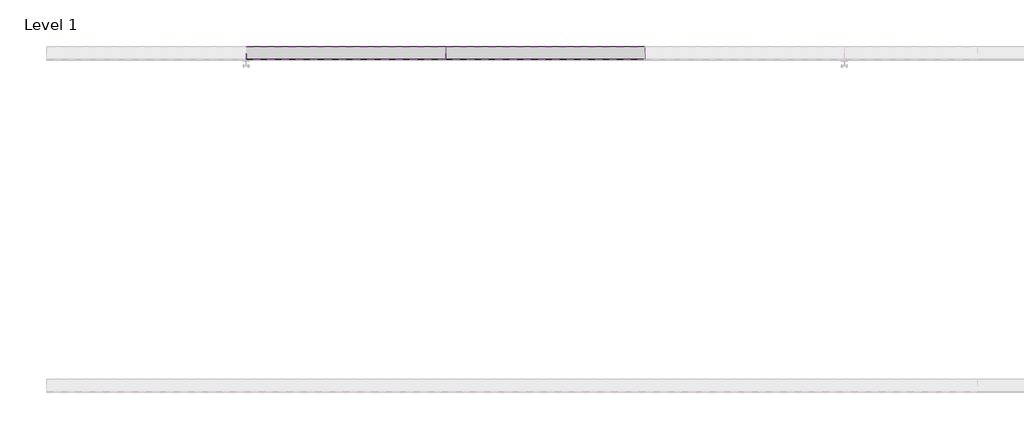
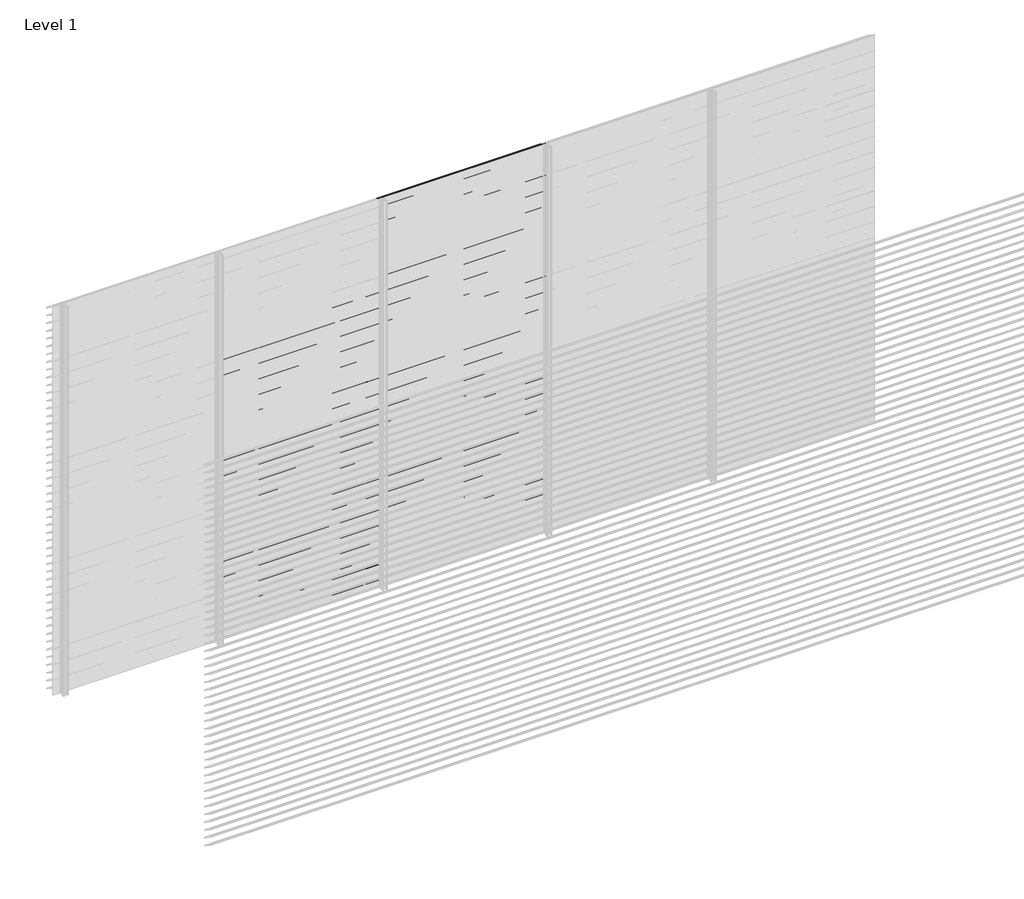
# One storey, part 21 of 153: 84 proxies.
"""IFC4 building model written with IfcOpenShell, lengths in millimetres."""

from ifc_helpers import new_model, si_unit, frame, origin, place, context, project, spatial, polyline, outline, extrude, element, save

model = new_model("IFC4")

# Units and contexts
model_context = context("Model", 3, world=origin())
ifc_project = project(units=[si_unit("LENGTHUNIT", "METRE", prefix="MILLI")], contexts=[model_context])

# Site, building, storey
site = spatial("IfcSite", under=ifc_project)
building = spatial("IfcBuilding", under=site)
storey = spatial("IfcBuildingStorey", under=building, Name="Level 1", Elevation=0.0)

# Proxies
placement = place(None, origin())
element("IfcBuildingElementProxy", 1, Name="Wall Sweeps", at=placement, inside=storey, context=model_context, shape_type="SweptSolid", body=[
    extrude(outline(polyline([(21561.0540136, 2226.0), (21561.0540136, 2220.0), (21559.8040136, 2220.7216933), (21559.8040136, 2225.2538091), (21483.0540136, 2273.9915103), (21483.0540136, 2280.0), (21484.3040136, 2280.0), (21484.3040136, 2274.7377012), (21561.0540136, 2226.0)])), frame((1666.6208099, 0.0, 0.0), z_axis=(1.0, 0.0, 0.0), x_axis=(0.0, 1.0, 0.0)), (0.0, 0.0, 1.0), 1199.9999999),
])
element("IfcBuildingElementProxy", 2, Name="Wall Sweeps", at=placement, inside=storey, context=model_context, shape_type="SweptSolid", body=[
    extrude(outline(polyline([(21561.0540136, 2166.0), (21561.0540136, 2160.0), (21559.8040136, 2160.7216933), (21559.8040136, 2165.2538091), (21483.0540136, 2213.9915103), (21483.0540136, 2220.0), (21484.3040136, 2220.0), (21484.3040136, 2214.7377012), (21561.0540136, 2166.0)])), frame((1666.6208099, 0.0, 0.0), z_axis=(1.0, 0.0, 0.0), x_axis=(0.0, 1.0, 0.0)), (0.0, 0.0, 1.0), 1199.9999999),
])
element("IfcBuildingElementProxy", 3, Name="Wall Sweeps", at=placement, inside=storey, context=model_context, shape_type="SweptSolid", body=[
    extrude(outline(polyline([(21561.0540136, 2106.0), (21561.0540136, 2100.0), (21559.8040136, 2100.7216933), (21559.8040136, 2105.2538091), (21483.0540136, 2153.9915103), (21483.0540136, 2160.0), (21484.3040136, 2160.0), (21484.3040136, 2154.7377012), (21561.0540136, 2106.0)])), frame((1666.6208099, 0.0, 0.0), z_axis=(1.0, 0.0, 0.0), x_axis=(0.0, 1.0, 0.0)), (0.0, 0.0, 1.0), 1199.9999999),
])
element("IfcBuildingElementProxy", 4, Name="Wall Sweeps", at=placement, inside=storey, context=model_context, shape_type="SweptSolid", body=[
    extrude(outline(polyline([(21561.0540136, 2046.0), (21561.0540136, 2040.0), (21559.8040136, 2040.7216933), (21559.8040136, 2045.2538091), (21483.0540136, 2093.9915103), (21483.0540136, 2100.0), (21484.3040136, 2100.0), (21484.3040136, 2094.7377012), (21561.0540136, 2046.0)])), frame((1666.6208099, 0.0, 0.0), z_axis=(1.0, 0.0, 0.0), x_axis=(0.0, 1.0, 0.0)), (0.0, 0.0, 1.0), 1199.9999999),
])
element("IfcBuildingElementProxy", 5, Name="Wall Sweeps", at=placement, inside=storey, context=model_context, shape_type="SweptSolid", body=[
    extrude(outline(polyline([(21561.0540136, 1986.0), (21561.0540136, 1980.0), (21559.8040136, 1980.7216933), (21559.8040136, 1985.2538091), (21483.0540136, 2033.9915103), (21483.0540136, 2040.0), (21484.3040136, 2040.0), (21484.3040136, 2034.7377012), (21561.0540136, 1986.0)])), frame((1666.6208099, 0.0, 0.0), z_axis=(1.0, 0.0, 0.0), x_axis=(0.0, 1.0, 0.0)), (0.0, 0.0, 1.0), 1199.9999999),
])
element("IfcBuildingElementProxy", 6, Name="Wall Sweeps", at=placement, inside=storey, context=model_context, shape_type="SweptSolid", body=[
    extrude(outline(polyline([(21561.0540136, 1926.0), (21561.0540136, 1920.0), (21559.8040136, 1920.7216933), (21559.8040136, 1925.2538091), (21483.0540136, 1973.9915103), (21483.0540136, 1980.0), (21484.3040136, 1980.0), (21484.3040136, 1974.7377012), (21561.0540136, 1926.0)])), frame((1666.6208099, 0.0, 0.0), z_axis=(1.0, 0.0, 0.0), x_axis=(0.0, 1.0, 0.0)), (0.0, 0.0, 1.0), 1199.9999999),
])
element("IfcBuildingElementProxy", 7, Name="Wall Sweeps", at=placement, inside=storey, context=model_context, shape_type="SweptSolid", body=[
    extrude(outline(polyline([(21561.0540136, 1866.0), (21561.0540136, 1860.0), (21559.8040136, 1860.7216933), (21559.8040136, 1865.2538091), (21483.0540136, 1913.9915103), (21483.0540136, 1920.0), (21484.3040136, 1920.0), (21484.3040136, 1914.7377012), (21561.0540136, 1866.0)])), frame((1666.6208099, 0.0, 0.0), z_axis=(1.0, 0.0, 0.0), x_axis=(0.0, 1.0, 0.0)), (0.0, 0.0, 1.0), 1199.9999999),
])
element("IfcBuildingElementProxy", 8, Name="Wall Sweeps", at=placement, inside=storey, context=model_context, shape_type="SweptSolid", body=[
    extrude(outline(polyline([(21561.0540136, 1806.0), (21561.0540136, 1800.0), (21559.8040136, 1800.7216933), (21559.8040136, 1805.2538091), (21483.0540136, 1853.9915103), (21483.0540136, 1860.0), (21484.3040136, 1860.0), (21484.3040136, 1854.7377012), (21561.0540136, 1806.0)])), frame((1666.6208099, 0.0, 0.0), z_axis=(1.0, 0.0, 0.0), x_axis=(0.0, 1.0, 0.0)), (0.0, 0.0, 1.0), 1199.9999999),
])
element("IfcBuildingElementProxy", 9, Name="Wall Sweeps", at=placement, inside=storey, context=model_context, shape_type="SweptSolid", body=[
    extrude(outline(polyline([(21561.0540136, 1746.0), (21561.0540136, 1740.0), (21559.8040136, 1740.7216933), (21559.8040136, 1745.2538091), (21483.0540136, 1793.9915103), (21483.0540136, 1800.0), (21484.3040136, 1800.0), (21484.3040136, 1794.7377012), (21561.0540136, 1746.0)])), frame((1666.6208099, 0.0, 0.0), z_axis=(1.0, 0.0, 0.0), x_axis=(0.0, 1.0, 0.0)), (0.0, 0.0, 1.0), 1199.9999999),
])
element("IfcBuildingElementProxy", 10, Name="Wall Sweeps", at=placement, inside=storey, context=model_context, shape_type="SweptSolid", body=[
    extrude(outline(polyline([(21561.0540136, 1686.0), (21561.0540136, 1680.0), (21559.8040136, 1680.7216933), (21559.8040136, 1685.2538091), (21483.0540136, 1733.9915103), (21483.0540136, 1740.0), (21484.3040136, 1740.0), (21484.3040136, 1734.7377012), (21561.0540136, 1686.0)])), frame((1666.6208099, 0.0, 0.0), z_axis=(1.0, 0.0, 0.0), x_axis=(0.0, 1.0, 0.0)), (0.0, 0.0, 1.0), 1199.9999999),
])
element("IfcBuildingElementProxy", 11, Name="Wall Sweeps", at=placement, inside=storey, context=model_context, shape_type="SweptSolid", body=[
    extrude(outline(polyline([(21561.0540136, 1626.0), (21561.0540136, 1620.0), (21559.8040136, 1620.7216933), (21559.8040136, 1625.2538091), (21483.0540136, 1673.9915103), (21483.0540136, 1680.0), (21484.3040136, 1680.0), (21484.3040136, 1674.7377012), (21561.0540136, 1626.0)])), frame((1666.6208099, 0.0, 0.0), z_axis=(1.0, 0.0, 0.0), x_axis=(0.0, 1.0, 0.0)), (0.0, 0.0, 1.0), 1199.9999999),
])
element("IfcBuildingElementProxy", 12, Name="Wall Sweeps", at=placement, inside=storey, context=model_context, shape_type="SweptSolid", body=[
    extrude(outline(polyline([(21561.0540136, 1566.0), (21561.0540136, 1560.0), (21559.8040136, 1560.7216933), (21559.8040136, 1565.2538091), (21483.0540136, 1613.9915103), (21483.0540136, 1620.0), (21484.3040136, 1620.0), (21484.3040136, 1614.7377012), (21561.0540136, 1566.0)])), frame((1666.6208099, 0.0, 0.0), z_axis=(1.0, 0.0, 0.0), x_axis=(0.0, 1.0, 0.0)), (0.0, 0.0, 1.0), 1199.9999999),
])
element("IfcBuildingElementProxy", 13, Name="Wall Sweeps", at=placement, inside=storey, context=model_context, shape_type="SweptSolid", body=[
    extrude(outline(polyline([(21561.0540136, 1506.0), (21561.0540136, 1500.0), (21559.8040136, 1500.7216933), (21559.8040136, 1505.2538091), (21483.0540136, 1553.9915103), (21483.0540136, 1560.0), (21484.3040136, 1560.0), (21484.3040136, 1554.7377012), (21561.0540136, 1506.0)])), frame((1666.6208099, 0.0, 0.0), z_axis=(1.0, 0.0, 0.0), x_axis=(0.0, 1.0, 0.0)), (0.0, 0.0, 1.0), 1199.9999999),
])
element("IfcBuildingElementProxy", 14, Name="Wall Sweeps", at=placement, inside=storey, context=model_context, shape_type="SweptSolid", body=[
    extrude(outline(polyline([(21561.0540136, 1446.0), (21561.0540136, 1440.0), (21559.8040136, 1440.7216933), (21559.8040136, 1445.2538091), (21483.0540136, 1493.9915103), (21483.0540136, 1500.0), (21484.3040136, 1500.0), (21484.3040136, 1494.7377012), (21561.0540136, 1446.0)])), frame((1666.6208099, 0.0, 0.0), z_axis=(1.0, 0.0, 0.0), x_axis=(0.0, 1.0, 0.0)), (0.0, 0.0, 1.0), 1199.9999999),
])
element("IfcBuildingElementProxy", 15, Name="Wall Sweeps", at=placement, inside=storey, context=model_context, shape_type="SweptSolid", body=[
    extrude(outline(polyline([(21561.0540136, 1386.0), (21561.0540136, 1380.0), (21559.8040136, 1380.7216933), (21559.8040136, 1385.2538091), (21483.0540136, 1433.9915103), (21483.0540136, 1440.0), (21484.3040136, 1440.0), (21484.3040136, 1434.7377012), (21561.0540136, 1386.0)])), frame((1666.6208099, 0.0, 0.0), z_axis=(1.0, 0.0, 0.0), x_axis=(0.0, 1.0, 0.0)), (0.0, 0.0, 1.0), 1199.9999999),
])
element("IfcBuildingElementProxy", 16, Name="Wall Sweeps", at=placement, inside=storey, context=model_context, shape_type="SweptSolid", body=[
    extrude(outline(polyline([(21561.0540136, 1326.0), (21561.0540136, 1320.0), (21559.8040136, 1320.7216933), (21559.8040136, 1325.2538091), (21483.0540136, 1373.9915103), (21483.0540136, 1380.0), (21484.3040136, 1380.0), (21484.3040136, 1374.7377012), (21561.0540136, 1326.0)])), frame((1666.6208099, 0.0, 0.0), z_axis=(1.0, 0.0, 0.0), x_axis=(0.0, 1.0, 0.0)), (0.0, 0.0, 1.0), 1199.9999999),
])
element("IfcBuildingElementProxy", 17, Name="Wall Sweeps", at=placement, inside=storey, context=model_context, shape_type="SweptSolid", body=[
    extrude(outline(polyline([(21561.0540136, 1266.0), (21561.0540136, 1260.0), (21559.8040136, 1260.7216933), (21559.8040136, 1265.2538091), (21483.0540136, 1313.9915103), (21483.0540136, 1320.0), (21484.3040136, 1320.0), (21484.3040136, 1314.7377012), (21561.0540136, 1266.0)])), frame((1666.6208099, 0.0, 0.0), z_axis=(1.0, 0.0, 0.0), x_axis=(0.0, 1.0, 0.0)), (0.0, 0.0, 1.0), 1199.9999999),
])
element("IfcBuildingElementProxy", 18, Name="Wall Sweeps", at=placement, inside=storey, context=model_context, shape_type="SweptSolid", body=[
    extrude(outline(polyline([(21561.0540136, 1206.0), (21561.0540136, 1200.0), (21559.8040136, 1200.7216933), (21559.8040136, 1205.2538091), (21483.0540136, 1253.9915103), (21483.0540136, 1260.0), (21484.3040136, 1260.0), (21484.3040136, 1254.7377012), (21561.0540136, 1206.0)])), frame((1666.6208099, 0.0, 0.0), z_axis=(1.0, 0.0, 0.0), x_axis=(0.0, 1.0, 0.0)), (0.0, 0.0, 1.0), 1199.9999999),
])
element("IfcBuildingElementProxy", 19, Name="Wall Sweeps", at=placement, inside=storey, context=model_context, shape_type="SweptSolid", body=[
    extrude(outline(polyline([(21561.0540136, 1146.0), (21561.0540136, 1140.0), (21559.8040136, 1140.7216933), (21559.8040136, 1145.2538091), (21483.0540136, 1193.9915103), (21483.0540136, 1200.0), (21484.3040136, 1200.0), (21484.3040136, 1194.7377012), (21561.0540136, 1146.0)])), frame((1666.6208099, 0.0, 0.0), z_axis=(1.0, 0.0, 0.0), x_axis=(0.0, 1.0, 0.0)), (0.0, 0.0, 1.0), 1199.9999999),
])
element("IfcBuildingElementProxy", 20, Name="Wall Sweeps", at=placement, inside=storey, context=model_context, shape_type="SweptSolid", body=[
    extrude(outline(polyline([(21561.0540136, 1086.0), (21561.0540136, 1080.0), (21559.8040136, 1080.7216933), (21559.8040136, 1085.2538091), (21483.0540136, 1133.9915103), (21483.0540136, 1140.0), (21484.3040136, 1140.0), (21484.3040136, 1134.7377012), (21561.0540136, 1086.0)])), frame((1666.6208099, 0.0, 0.0), z_axis=(1.0, 0.0, 0.0), x_axis=(0.0, 1.0, 0.0)), (0.0, 0.0, 1.0), 1199.9999999),
])
element("IfcBuildingElementProxy", 21, Name="Wall Sweeps", at=placement, inside=storey, context=model_context, shape_type="SweptSolid", body=[
    extrude(outline(polyline([(21561.0540136, 1026.0), (21561.0540136, 1020.0), (21559.8040136, 1020.7216933), (21559.8040136, 1025.2538091), (21483.0540136, 1073.9915103), (21483.0540136, 1080.0), (21484.3040136, 1080.0), (21484.3040136, 1074.7377012), (21561.0540136, 1026.0)])), frame((1666.6208099, 0.0, 0.0), z_axis=(1.0, 0.0, 0.0), x_axis=(0.0, 1.0, 0.0)), (0.0, 0.0, 1.0), 1199.9999999),
])
element("IfcBuildingElementProxy", 22, Name="Wall Sweeps", at=placement, inside=storey, context=model_context, shape_type="SweptSolid", body=[
    extrude(outline(polyline([(21561.0540136, 966.0), (21561.0540136, 960.0), (21559.8040136, 960.7216933), (21559.8040136, 965.2538091), (21483.0540136, 1013.9915103), (21483.0540136, 1020.0), (21484.3040136, 1020.0), (21484.3040136, 1014.7377012), (21561.0540136, 966.0)])), frame((1666.6208099, 0.0, 0.0), z_axis=(1.0, 0.0, 0.0), x_axis=(0.0, 1.0, 0.0)), (0.0, 0.0, 1.0), 1199.9999999),
])
element("IfcBuildingElementProxy", 23, Name="Wall Sweeps", at=placement, inside=storey, context=model_context, shape_type="SweptSolid", body=[
    extrude(outline(polyline([(21561.0540136, 906.0), (21561.0540136, 900.0), (21559.8040136, 900.7216933), (21559.8040136, 905.2538091), (21483.0540136, 953.9915103), (21483.0540136, 960.0), (21484.3040136, 960.0), (21484.3040136, 954.7377012), (21561.0540136, 906.0)])), frame((1666.6208099, 0.0, 0.0), z_axis=(1.0, 0.0, 0.0), x_axis=(0.0, 1.0, 0.0)), (0.0, 0.0, 1.0), 1199.9999999),
])
element("IfcBuildingElementProxy", 24, Name="Wall Sweeps", at=placement, inside=storey, context=model_context, shape_type="SweptSolid", body=[
    extrude(outline(polyline([(21561.0540136, 846.0), (21561.0540136, 840.0), (21559.8040136, 840.7216933), (21559.8040136, 845.2538091), (21483.0540136, 893.9915103), (21483.0540136, 900.0), (21484.3040136, 900.0), (21484.3040136, 894.7377012), (21561.0540136, 846.0)])), frame((1666.6208099, 0.0, 0.0), z_axis=(1.0, 0.0, 0.0), x_axis=(0.0, 1.0, 0.0)), (0.0, 0.0, 1.0), 1199.9999999),
])
element("IfcBuildingElementProxy", 25, Name="Wall Sweeps", at=placement, inside=storey, context=model_context, shape_type="SweptSolid", body=[
    extrude(outline(polyline([(21561.0540136, 786.0), (21561.0540136, 780.0), (21559.8040136, 780.7216933), (21559.8040136, 785.2538091), (21483.0540136, 833.9915103), (21483.0540136, 840.0), (21484.3040136, 840.0), (21484.3040136, 834.7377012), (21561.0540136, 786.0)])), frame((1666.6208099, 0.0, 0.0), z_axis=(1.0, 0.0, 0.0), x_axis=(0.0, 1.0, 0.0)), (0.0, 0.0, 1.0), 1199.9999999),
])
element("IfcBuildingElementProxy", 26, Name="Wall Sweeps", at=placement, inside=storey, context=model_context, shape_type="SweptSolid", body=[
    extrude(outline(polyline([(21561.0540136, 726.0), (21561.0540136, 720.0), (21559.8040136, 720.7216933), (21559.8040136, 725.2538091), (21483.0540136, 773.9915103), (21483.0540136, 780.0), (21484.3040136, 780.0), (21484.3040136, 774.7377012), (21561.0540136, 726.0)])), frame((1666.6208099, 0.0, 0.0), z_axis=(1.0, 0.0, 0.0), x_axis=(0.0, 1.0, 0.0)), (0.0, 0.0, 1.0), 1199.9999999),
])
element("IfcBuildingElementProxy", 27, Name="Wall Sweeps", at=placement, inside=storey, context=model_context, shape_type="SweptSolid", body=[
    extrude(outline(polyline([(21561.0540136, 666.0), (21561.0540136, 660.0), (21559.8040136, 660.7216933), (21559.8040136, 665.2538091), (21483.0540136, 713.9915103), (21483.0540136, 720.0), (21484.3040136, 720.0), (21484.3040136, 714.7377012), (21561.0540136, 666.0)])), frame((1666.6208099, 0.0, 0.0), z_axis=(1.0, 0.0, 0.0), x_axis=(0.0, 1.0, 0.0)), (0.0, 0.0, 1.0), 1199.9999999),
])
element("IfcBuildingElementProxy", 28, Name="Wall Sweeps", at=placement, inside=storey, context=model_context, shape_type="SweptSolid", body=[
    extrude(outline(polyline([(21561.0540136, 606.0), (21561.0540136, 600.0), (21559.8040136, 600.7216933), (21559.8040136, 605.2538091), (21483.0540136, 653.9915103), (21483.0540136, 660.0), (21484.3040136, 660.0), (21484.3040136, 654.7377012), (21561.0540136, 606.0)])), frame((1666.6208099, 0.0, 0.0), z_axis=(1.0, 0.0, 0.0), x_axis=(0.0, 1.0, 0.0)), (0.0, 0.0, 1.0), 1199.9999999),
])
element("IfcBuildingElementProxy", 29, Name="Wall Sweeps", at=placement, inside=storey, context=model_context, shape_type="SweptSolid", body=[
    extrude(outline(polyline([(21561.0540136, 546.0), (21561.0540136, 540.0), (21559.8040136, 540.7216933), (21559.8040136, 545.2538091), (21483.0540136, 593.9915103), (21483.0540136, 600.0), (21484.3040136, 600.0), (21484.3040136, 594.7377012), (21561.0540136, 546.0)])), frame((1666.6208099, 0.0, 0.0), z_axis=(1.0, 0.0, 0.0), x_axis=(0.0, 1.0, 0.0)), (0.0, 0.0, 1.0), 1199.9999999),
])
element("IfcBuildingElementProxy", 30, Name="Wall Sweeps", at=placement, inside=storey, context=model_context, shape_type="SweptSolid", body=[
    extrude(outline(polyline([(21561.0540136, 486.0), (21561.0540136, 480.0), (21559.8040136, 480.7216933), (21559.8040136, 485.2538091), (21483.0540136, 533.9915103), (21483.0540136, 540.0), (21484.3040136, 540.0), (21484.3040136, 534.7377012), (21561.0540136, 486.0)])), frame((1666.6208099, 0.0, 0.0), z_axis=(1.0, 0.0, 0.0), x_axis=(0.0, 1.0, 0.0)), (0.0, 0.0, 1.0), 1199.9999999),
])
element("IfcBuildingElementProxy", 31, Name="Wall Sweeps", at=placement, inside=storey, context=model_context, shape_type="SweptSolid", body=[
    extrude(outline(polyline([(21561.0540136, 426.0), (21561.0540136, 420.0), (21559.8040136, 420.7216933), (21559.8040136, 425.2538091), (21483.0540136, 473.9915103), (21483.0540136, 480.0), (21484.3040136, 480.0), (21484.3040136, 474.7377012), (21561.0540136, 426.0)])), frame((1666.6208099, 0.0, 0.0), z_axis=(1.0, 0.0, 0.0), x_axis=(0.0, 1.0, 0.0)), (0.0, 0.0, 1.0), 1199.9999999),
])
element("IfcBuildingElementProxy", 32, Name="Wall Sweeps", at=placement, inside=storey, context=model_context, shape_type="SweptSolid", body=[
    extrude(outline(polyline([(21561.0540136, 366.0), (21561.0540136, 360.0), (21559.8040136, 360.7216933), (21559.8040136, 365.2538091), (21483.0540136, 413.9915103), (21483.0540136, 420.0), (21484.3040136, 420.0), (21484.3040136, 414.7377012), (21561.0540136, 366.0)])), frame((1666.6208099, 0.0, 0.0), z_axis=(1.0, 0.0, 0.0), x_axis=(0.0, 1.0, 0.0)), (0.0, 0.0, 1.0), 1199.9999999),
])
element("IfcBuildingElementProxy", 33, Name="Wall Sweeps", at=placement, inside=storey, context=model_context, shape_type="SweptSolid", body=[
    extrude(outline(polyline([(21561.0540136, 306.0), (21561.0540136, 300.0), (21559.8040136, 300.7216933), (21559.8040136, 305.2538091), (21483.0540136, 353.9915103), (21483.0540136, 360.0), (21484.3040136, 360.0), (21484.3040136, 354.7377012), (21561.0540136, 306.0)])), frame((1666.6208099, 0.0, 0.0), z_axis=(1.0, 0.0, 0.0), x_axis=(0.0, 1.0, 0.0)), (0.0, 0.0, 1.0), 1199.9999999),
])
element("IfcBuildingElementProxy", 34, Name="Wall Sweeps", at=placement, inside=storey, context=model_context, shape_type="SweptSolid", body=[
    extrude(outline(polyline([(21561.0540136, 246.0), (21561.0540136, 240.0), (21559.8040136, 240.7216933), (21559.8040136, 245.2538091), (21483.0540136, 293.9915103), (21483.0540136, 300.0), (21484.3040136, 300.0), (21484.3040136, 294.7377012), (21561.0540136, 246.0)])), frame((1666.6208099, 0.0, 0.0), z_axis=(1.0, 0.0, 0.0), x_axis=(0.0, 1.0, 0.0)), (0.0, 0.0, 1.0), 1199.9999999),
])
element("IfcBuildingElementProxy", 35, Name="Wall Sweeps", at=placement, inside=storey, context=model_context, shape_type="SweptSolid", body=[
    extrude(outline(polyline([(21561.0540136, 186.0), (21561.0540136, 180.0), (21559.8040136, 180.7216933), (21559.8040136, 185.2538091), (21483.0540136, 233.9915103), (21483.0540136, 240.0), (21484.3040136, 240.0), (21484.3040136, 234.7377012), (21561.0540136, 186.0)])), frame((1666.6208099, 0.0, 0.0), z_axis=(1.0, 0.0, 0.0), x_axis=(0.0, 1.0, 0.0)), (0.0, 0.0, 1.0), 1199.9999999),
])
element("IfcBuildingElementProxy", 36, Name="Wall Sweeps", at=placement, inside=storey, context=model_context, shape_type="SweptSolid", body=[
    extrude(outline(polyline([(21561.0540136, 126.0), (21561.0540136, 120.0), (21559.8040136, 120.7216933), (21559.8040136, 125.2538091), (21483.0540136, 173.9915103), (21483.0540136, 180.0), (21484.3040136, 180.0), (21484.3040136, 174.7377012), (21561.0540136, 126.0)])), frame((1666.6208099, 0.0, 0.0), z_axis=(1.0, 0.0, 0.0), x_axis=(0.0, 1.0, 0.0)), (0.0, 0.0, 1.0), 1199.9999999),
])
element("IfcBuildingElementProxy", 37, Name="Wall Sweeps", at=placement, inside=storey, context=model_context, shape_type="SweptSolid", body=[
    extrude(outline(polyline([(21561.0540136, 66.0), (21561.0540136, 60.0), (21559.8040136, 60.7216933), (21559.8040136, 65.2538091), (21483.0540136, 113.9915103), (21483.0540136, 120.0), (21484.3040136, 120.0), (21484.3040136, 114.7377012), (21561.0540136, 66.0)])), frame((1666.6208099, 0.0, 0.0), z_axis=(1.0, 0.0, 0.0), x_axis=(0.0, 1.0, 0.0)), (0.0, 0.0, 1.0), 1199.9999999),
])
element("IfcBuildingElementProxy", 38, Name="Wall Sweeps", at=placement, inside=storey, context=model_context, shape_type="SweptSolid", body=[
    extrude(outline(polyline([(21561.0540136, 6.0), (21561.0540136, 0.0), (21559.8040136, 0.7216933), (21559.8040136, 5.2538091), (21483.0540136, 53.9915103), (21483.0540136, 60.0), (21484.3040136, 60.0), (21484.3040136, 54.7377012), (21561.0540136, 6.0)])), frame((1666.6208099, 0.0, 0.0), z_axis=(1.0, 0.0, 0.0), x_axis=(0.0, 1.0, 0.0)), (0.0, 0.0, 1.0), 1199.9999999),
])
element("IfcBuildingElementProxy", 39, Name="Wall Sweeps", at=placement, inside=storey, context=model_context, shape_type="SweptSolid", body=[
    extrude(outline(polyline([(21561.0540136, 2946.0), (21561.0540136, 2940.0), (21559.8040136, 2940.7216933), (21559.8040136, 2945.2538091), (21483.0540136, 2993.9915103), (21483.0540136, 3000.0), (21484.3040136, 3000.0), (21484.3040136, 2994.7377012), (21561.0540136, 2946.0)])), frame((2866.6208097, 0.0, 0.0), z_axis=(1.0, 0.0, 0.0), x_axis=(0.0, 1.0, 0.0)), (0.0, 0.0, 1.0), 1199.9999999),
])
element("IfcBuildingElementProxy", 40, Name="Wall Sweeps", at=placement, inside=storey, context=model_context, shape_type="SweptSolid", body=[
    extrude(outline(polyline([(21561.0540136, 2886.0), (21561.0540136, 2880.0), (21559.8040136, 2880.7216933), (21559.8040136, 2885.2538091), (21483.0540136, 2933.9915103), (21483.0540136, 2940.0), (21484.3040136, 2940.0), (21484.3040136, 2934.7377012), (21561.0540136, 2886.0)])), frame((2866.6208097, 0.0, 0.0), z_axis=(1.0, 0.0, 0.0), x_axis=(0.0, 1.0, 0.0)), (0.0, 0.0, 1.0), 1199.9999999),
])
element("IfcBuildingElementProxy", 41, Name="Wall Sweeps", at=placement, inside=storey, context=model_context, shape_type="SweptSolid", body=[
    extrude(outline(polyline([(21561.0540136, 2826.0), (21561.0540136, 2820.0), (21559.8040136, 2820.7216933), (21559.8040136, 2825.2538091), (21483.0540136, 2873.9915103), (21483.0540136, 2880.0), (21484.3040136, 2880.0), (21484.3040136, 2874.7377012), (21561.0540136, 2826.0)])), frame((2866.6208097, 0.0, 0.0), z_axis=(1.0, 0.0, 0.0), x_axis=(0.0, 1.0, 0.0)), (0.0, 0.0, 1.0), 1199.9999999),
])
element("IfcBuildingElementProxy", 42, Name="Wall Sweeps", at=placement, inside=storey, context=model_context, shape_type="SweptSolid", body=[
    extrude(outline(polyline([(21561.0540136, 2766.0), (21561.0540136, 2760.0), (21559.8040136, 2760.7216933), (21559.8040136, 2765.2538091), (21483.0540136, 2813.9915103), (21483.0540136, 2820.0), (21484.3040136, 2820.0), (21484.3040136, 2814.7377012), (21561.0540136, 2766.0)])), frame((2866.6208097, 0.0, 0.0), z_axis=(1.0, 0.0, 0.0), x_axis=(0.0, 1.0, 0.0)), (0.0, 0.0, 1.0), 1199.9999999),
])
element("IfcBuildingElementProxy", 43, Name="Wall Sweeps", at=placement, inside=storey, context=model_context, shape_type="SweptSolid", body=[
    extrude(outline(polyline([(21561.0540136, 2706.0), (21561.0540136, 2700.0), (21559.8040136, 2700.7216933), (21559.8040136, 2705.2538091), (21483.0540136, 2753.9915103), (21483.0540136, 2760.0), (21484.3040136, 2760.0), (21484.3040136, 2754.7377012), (21561.0540136, 2706.0)])), frame((2866.6208097, 0.0, 0.0), z_axis=(1.0, 0.0, 0.0), x_axis=(0.0, 1.0, 0.0)), (0.0, 0.0, 1.0), 1199.9999999),
])
element("IfcBuildingElementProxy", 44, Name="Wall Sweeps", at=placement, inside=storey, context=model_context, shape_type="SweptSolid", body=[
    extrude(outline(polyline([(21561.0540136, 2646.0), (21561.0540136, 2640.0), (21559.8040136, 2640.7216933), (21559.8040136, 2645.2538091), (21483.0540136, 2693.9915103), (21483.0540136, 2700.0), (21484.3040136, 2700.0), (21484.3040136, 2694.7377012), (21561.0540136, 2646.0)])), frame((2866.6208097, 0.0, 0.0), z_axis=(1.0, 0.0, 0.0), x_axis=(0.0, 1.0, 0.0)), (0.0, 0.0, 1.0), 1199.9999999),
])
element("IfcBuildingElementProxy", 45, Name="Wall Sweeps", at=placement, inside=storey, context=model_context, shape_type="SweptSolid", body=[
    extrude(outline(polyline([(21561.0540136, 2586.0), (21561.0540136, 2580.0), (21559.8040136, 2580.7216933), (21559.8040136, 2585.2538091), (21483.0540136, 2633.9915103), (21483.0540136, 2640.0), (21484.3040136, 2640.0), (21484.3040136, 2634.7377012), (21561.0540136, 2586.0)])), frame((2866.6208097, 0.0, 0.0), z_axis=(1.0, 0.0, 0.0), x_axis=(0.0, 1.0, 0.0)), (0.0, 0.0, 1.0), 1199.9999999),
])
element("IfcBuildingElementProxy", 46, Name="Wall Sweeps", at=placement, inside=storey, context=model_context, shape_type="SweptSolid", body=[
    extrude(outline(polyline([(21561.0540136, 2526.0), (21561.0540136, 2520.0), (21559.8040136, 2520.7216933), (21559.8040136, 2525.2538091), (21483.0540136, 2573.9915103), (21483.0540136, 2580.0), (21484.3040136, 2580.0), (21484.3040136, 2574.7377012), (21561.0540136, 2526.0)])), frame((2866.6208097, 0.0, 0.0), z_axis=(1.0, 0.0, 0.0), x_axis=(0.0, 1.0, 0.0)), (0.0, 0.0, 1.0), 1199.9999999),
])
element("IfcBuildingElementProxy", 47, Name="Wall Sweeps", at=placement, inside=storey, context=model_context, shape_type="SweptSolid", body=[
    extrude(outline(polyline([(21561.0540136, 2466.0), (21561.0540136, 2460.0), (21559.8040136, 2460.7216933), (21559.8040136, 2465.2538091), (21483.0540136, 2513.9915103), (21483.0540136, 2520.0), (21484.3040136, 2520.0), (21484.3040136, 2514.7377012), (21561.0540136, 2466.0)])), frame((2866.6208097, 0.0, 0.0), z_axis=(1.0, 0.0, 0.0), x_axis=(0.0, 1.0, 0.0)), (0.0, 0.0, 1.0), 1199.9999999),
])
element("IfcBuildingElementProxy", 48, Name="Wall Sweeps", at=placement, inside=storey, context=model_context, shape_type="SweptSolid", body=[
    extrude(outline(polyline([(21561.0540136, 2406.0), (21561.0540136, 2400.0), (21559.8040136, 2400.7216933), (21559.8040136, 2405.2538091), (21483.0540136, 2453.9915103), (21483.0540136, 2460.0), (21484.3040136, 2460.0), (21484.3040136, 2454.7377012), (21561.0540136, 2406.0)])), frame((2866.6208097, 0.0, 0.0), z_axis=(1.0, 0.0, 0.0), x_axis=(0.0, 1.0, 0.0)), (0.0, 0.0, 1.0), 1199.9999999),
])
element("IfcBuildingElementProxy", 49, Name="Wall Sweeps", at=placement, inside=storey, context=model_context, shape_type="SweptSolid", body=[
    extrude(outline(polyline([(21561.0540136, 2346.0), (21561.0540136, 2340.0), (21559.8040136, 2340.7216933), (21559.8040136, 2345.2538091), (21483.0540136, 2393.9915103), (21483.0540136, 2400.0), (21484.3040136, 2400.0), (21484.3040136, 2394.7377012), (21561.0540136, 2346.0)])), frame((2866.6208097, 0.0, 0.0), z_axis=(1.0, 0.0, 0.0), x_axis=(0.0, 1.0, 0.0)), (0.0, 0.0, 1.0), 1199.9999999),
])
element("IfcBuildingElementProxy", 50, Name="Wall Sweeps", at=placement, inside=storey, context=model_context, shape_type="SweptSolid", body=[
    extrude(outline(polyline([(21561.0540136, 2286.0), (21561.0540136, 2280.0), (21559.8040136, 2280.7216933), (21559.8040136, 2285.2538091), (21483.0540136, 2333.9915103), (21483.0540136, 2340.0), (21484.3040136, 2340.0), (21484.3040136, 2334.7377012), (21561.0540136, 2286.0)])), frame((2866.6208097, 0.0, 0.0), z_axis=(1.0, 0.0, 0.0), x_axis=(0.0, 1.0, 0.0)), (0.0, 0.0, 1.0), 1199.9999999),
])
element("IfcBuildingElementProxy", 51, Name="Wall Sweeps", at=placement, inside=storey, context=model_context, shape_type="SweptSolid", body=[
    extrude(outline(polyline([(21561.0540136, 2226.0), (21561.0540136, 2220.0), (21559.8040136, 2220.7216933), (21559.8040136, 2225.2538091), (21483.0540136, 2273.9915103), (21483.0540136, 2280.0), (21484.3040136, 2280.0), (21484.3040136, 2274.7377012), (21561.0540136, 2226.0)])), frame((2866.6208097, 0.0, 0.0), z_axis=(1.0, 0.0, 0.0), x_axis=(0.0, 1.0, 0.0)), (0.0, 0.0, 1.0), 1199.9999999),
])
element("IfcBuildingElementProxy", 52, Name="Wall Sweeps", at=placement, inside=storey, context=model_context, shape_type="SweptSolid", body=[
    extrude(outline(polyline([(21561.0540136, 2166.0), (21561.0540136, 2160.0), (21559.8040136, 2160.7216933), (21559.8040136, 2165.2538091), (21483.0540136, 2213.9915103), (21483.0540136, 2220.0), (21484.3040136, 2220.0), (21484.3040136, 2214.7377012), (21561.0540136, 2166.0)])), frame((2866.6208097, 0.0, 0.0), z_axis=(1.0, 0.0, 0.0), x_axis=(0.0, 1.0, 0.0)), (0.0, 0.0, 1.0), 1199.9999999),
])
element("IfcBuildingElementProxy", 53, Name="Wall Sweeps", at=placement, inside=storey, context=model_context, shape_type="SweptSolid", body=[
    extrude(outline(polyline([(21561.0540136, 2106.0), (21561.0540136, 2100.0), (21559.8040136, 2100.7216933), (21559.8040136, 2105.2538091), (21483.0540136, 2153.9915103), (21483.0540136, 2160.0), (21484.3040136, 2160.0), (21484.3040136, 2154.7377012), (21561.0540136, 2106.0)])), frame((2866.6208097, 0.0, 0.0), z_axis=(1.0, 0.0, 0.0), x_axis=(0.0, 1.0, 0.0)), (0.0, 0.0, 1.0), 1199.9999999),
])
element("IfcBuildingElementProxy", 54, Name="Wall Sweeps", at=placement, inside=storey, context=model_context, shape_type="SweptSolid", body=[
    extrude(outline(polyline([(21561.0540136, 2046.0), (21561.0540136, 2040.0), (21559.8040136, 2040.7216933), (21559.8040136, 2045.2538091), (21483.0540136, 2093.9915103), (21483.0540136, 2100.0), (21484.3040136, 2100.0), (21484.3040136, 2094.7377012), (21561.0540136, 2046.0)])), frame((2866.6208097, 0.0, 0.0), z_axis=(1.0, 0.0, 0.0), x_axis=(0.0, 1.0, 0.0)), (0.0, 0.0, 1.0), 1199.9999999),
])
element("IfcBuildingElementProxy", 55, Name="Wall Sweeps", at=placement, inside=storey, context=model_context, shape_type="SweptSolid", body=[
    extrude(outline(polyline([(21561.0540136, 1986.0), (21561.0540136, 1980.0), (21559.8040136, 1980.7216933), (21559.8040136, 1985.2538091), (21483.0540136, 2033.9915103), (21483.0540136, 2040.0), (21484.3040136, 2040.0), (21484.3040136, 2034.7377012), (21561.0540136, 1986.0)])), frame((2866.6208097, 0.0, 0.0), z_axis=(1.0, 0.0, 0.0), x_axis=(0.0, 1.0, 0.0)), (0.0, 0.0, 1.0), 1199.9999999),
])
element("IfcBuildingElementProxy", 56, Name="Wall Sweeps", at=placement, inside=storey, context=model_context, shape_type="SweptSolid", body=[
    extrude(outline(polyline([(21561.0540136, 1926.0), (21561.0540136, 1920.0), (21559.8040136, 1920.7216933), (21559.8040136, 1925.2538091), (21483.0540136, 1973.9915103), (21483.0540136, 1980.0), (21484.3040136, 1980.0), (21484.3040136, 1974.7377012), (21561.0540136, 1926.0)])), frame((2866.6208097, 0.0, 0.0), z_axis=(1.0, 0.0, 0.0), x_axis=(0.0, 1.0, 0.0)), (0.0, 0.0, 1.0), 1199.9999999),
])
element("IfcBuildingElementProxy", 57, Name="Wall Sweeps", at=placement, inside=storey, context=model_context, shape_type="SweptSolid", body=[
    extrude(outline(polyline([(21561.0540136, 1866.0), (21561.0540136, 1860.0), (21559.8040136, 1860.7216933), (21559.8040136, 1865.2538091), (21483.0540136, 1913.9915103), (21483.0540136, 1920.0), (21484.3040136, 1920.0), (21484.3040136, 1914.7377012), (21561.0540136, 1866.0)])), frame((2866.6208097, 0.0, 0.0), z_axis=(1.0, 0.0, 0.0), x_axis=(0.0, 1.0, 0.0)), (0.0, 0.0, 1.0), 1199.9999999),
])
element("IfcBuildingElementProxy", 58, Name="Wall Sweeps", at=placement, inside=storey, context=model_context, shape_type="SweptSolid", body=[
    extrude(outline(polyline([(21561.0540136, 1806.0), (21561.0540136, 1800.0), (21559.8040136, 1800.7216933), (21559.8040136, 1805.2538091), (21483.0540136, 1853.9915103), (21483.0540136, 1860.0), (21484.3040136, 1860.0), (21484.3040136, 1854.7377012), (21561.0540136, 1806.0)])), frame((2866.6208097, 0.0, 0.0), z_axis=(1.0, 0.0, 0.0), x_axis=(0.0, 1.0, 0.0)), (0.0, 0.0, 1.0), 1199.9999999),
])
element("IfcBuildingElementProxy", 59, Name="Wall Sweeps", at=placement, inside=storey, context=model_context, shape_type="SweptSolid", body=[
    extrude(outline(polyline([(21561.0540136, 1746.0), (21561.0540136, 1740.0), (21559.8040136, 1740.7216933), (21559.8040136, 1745.2538091), (21483.0540136, 1793.9915103), (21483.0540136, 1800.0), (21484.3040136, 1800.0), (21484.3040136, 1794.7377012), (21561.0540136, 1746.0)])), frame((2866.6208097, 0.0, 0.0), z_axis=(1.0, 0.0, 0.0), x_axis=(0.0, 1.0, 0.0)), (0.0, 0.0, 1.0), 1199.9999999),
])
element("IfcBuildingElementProxy", 60, Name="Wall Sweeps", at=placement, inside=storey, context=model_context, shape_type="SweptSolid", body=[
    extrude(outline(polyline([(21561.0540136, 1686.0), (21561.0540136, 1680.0), (21559.8040136, 1680.7216933), (21559.8040136, 1685.2538091), (21483.0540136, 1733.9915103), (21483.0540136, 1740.0), (21484.3040136, 1740.0), (21484.3040136, 1734.7377012), (21561.0540136, 1686.0)])), frame((2866.6208097, 0.0, 0.0), z_axis=(1.0, 0.0, 0.0), x_axis=(0.0, 1.0, 0.0)), (0.0, 0.0, 1.0), 1199.9999999),
])
element("IfcBuildingElementProxy", 61, Name="Wall Sweeps", at=placement, inside=storey, context=model_context, shape_type="SweptSolid", body=[
    extrude(outline(polyline([(21561.0540136, 1626.0), (21561.0540136, 1620.0), (21559.8040136, 1620.7216933), (21559.8040136, 1625.2538091), (21483.0540136, 1673.9915103), (21483.0540136, 1680.0), (21484.3040136, 1680.0), (21484.3040136, 1674.7377012), (21561.0540136, 1626.0)])), frame((2866.6208097, 0.0, 0.0), z_axis=(1.0, 0.0, 0.0), x_axis=(0.0, 1.0, 0.0)), (0.0, 0.0, 1.0), 1199.9999999),
])
element("IfcBuildingElementProxy", 62, Name="Wall Sweeps", at=placement, inside=storey, context=model_context, shape_type="SweptSolid", body=[
    extrude(outline(polyline([(21561.0540136, 1566.0), (21561.0540136, 1560.0), (21559.8040136, 1560.7216933), (21559.8040136, 1565.2538091), (21483.0540136, 1613.9915103), (21483.0540136, 1620.0), (21484.3040136, 1620.0), (21484.3040136, 1614.7377012), (21561.0540136, 1566.0)])), frame((2866.6208097, 0.0, 0.0), z_axis=(1.0, 0.0, 0.0), x_axis=(0.0, 1.0, 0.0)), (0.0, 0.0, 1.0), 1199.9999999),
])
element("IfcBuildingElementProxy", 63, Name="Wall Sweeps", at=placement, inside=storey, context=model_context, shape_type="SweptSolid", body=[
    extrude(outline(polyline([(21561.0540136, 1506.0), (21561.0540136, 1500.0), (21559.8040136, 1500.7216933), (21559.8040136, 1505.2538091), (21483.0540136, 1553.9915103), (21483.0540136, 1560.0), (21484.3040136, 1560.0), (21484.3040136, 1554.7377012), (21561.0540136, 1506.0)])), frame((2866.6208097, 0.0, 0.0), z_axis=(1.0, 0.0, 0.0), x_axis=(0.0, 1.0, 0.0)), (0.0, 0.0, 1.0), 1199.9999999),
])
element("IfcBuildingElementProxy", 64, Name="Wall Sweeps", at=placement, inside=storey, context=model_context, shape_type="SweptSolid", body=[
    extrude(outline(polyline([(21561.0540136, 1446.0), (21561.0540136, 1440.0), (21559.8040136, 1440.7216933), (21559.8040136, 1445.2538091), (21483.0540136, 1493.9915103), (21483.0540136, 1500.0), (21484.3040136, 1500.0), (21484.3040136, 1494.7377012), (21561.0540136, 1446.0)])), frame((2866.6208097, 0.0, 0.0), z_axis=(1.0, 0.0, 0.0), x_axis=(0.0, 1.0, 0.0)), (0.0, 0.0, 1.0), 1199.9999999),
])
element("IfcBuildingElementProxy", 65, Name="Wall Sweeps", at=placement, inside=storey, context=model_context, shape_type="SweptSolid", body=[
    extrude(outline(polyline([(21561.0540136, 1386.0), (21561.0540136, 1380.0), (21559.8040136, 1380.7216933), (21559.8040136, 1385.2538091), (21483.0540136, 1433.9915103), (21483.0540136, 1440.0), (21484.3040136, 1440.0), (21484.3040136, 1434.7377012), (21561.0540136, 1386.0)])), frame((2866.6208097, 0.0, 0.0), z_axis=(1.0, 0.0, 0.0), x_axis=(0.0, 1.0, 0.0)), (0.0, 0.0, 1.0), 1199.9999999),
])
element("IfcBuildingElementProxy", 66, Name="Wall Sweeps", at=placement, inside=storey, context=model_context, shape_type="SweptSolid", body=[
    extrude(outline(polyline([(21561.0540136, 1326.0), (21561.0540136, 1320.0), (21559.8040136, 1320.7216933), (21559.8040136, 1325.2538091), (21483.0540136, 1373.9915103), (21483.0540136, 1380.0), (21484.3040136, 1380.0), (21484.3040136, 1374.7377012), (21561.0540136, 1326.0)])), frame((2866.6208097, 0.0, 0.0), z_axis=(1.0, 0.0, 0.0), x_axis=(0.0, 1.0, 0.0)), (0.0, 0.0, 1.0), 1199.9999999),
])
element("IfcBuildingElementProxy", 67, Name="Wall Sweeps", at=placement, inside=storey, context=model_context, shape_type="SweptSolid", body=[
    extrude(outline(polyline([(21561.0540136, 1266.0), (21561.0540136, 1260.0), (21559.8040136, 1260.7216933), (21559.8040136, 1265.2538091), (21483.0540136, 1313.9915103), (21483.0540136, 1320.0), (21484.3040136, 1320.0), (21484.3040136, 1314.7377012), (21561.0540136, 1266.0)])), frame((2866.6208097, 0.0, 0.0), z_axis=(1.0, 0.0, 0.0), x_axis=(0.0, 1.0, 0.0)), (0.0, 0.0, 1.0), 1199.9999999),
])
element("IfcBuildingElementProxy", 68, Name="Wall Sweeps", at=placement, inside=storey, context=model_context, shape_type="SweptSolid", body=[
    extrude(outline(polyline([(21561.0540136, 1206.0), (21561.0540136, 1200.0), (21559.8040136, 1200.7216933), (21559.8040136, 1205.2538091), (21483.0540136, 1253.9915103), (21483.0540136, 1260.0), (21484.3040136, 1260.0), (21484.3040136, 1254.7377012), (21561.0540136, 1206.0)])), frame((2866.6208097, 0.0, 0.0), z_axis=(1.0, 0.0, 0.0), x_axis=(0.0, 1.0, 0.0)), (0.0, 0.0, 1.0), 1199.9999999),
])
element("IfcBuildingElementProxy", 69, Name="Wall Sweeps", at=placement, inside=storey, context=model_context, shape_type="SweptSolid", body=[
    extrude(outline(polyline([(21561.0540136, 1146.0), (21561.0540136, 1140.0), (21559.8040136, 1140.7216933), (21559.8040136, 1145.2538091), (21483.0540136, 1193.9915103), (21483.0540136, 1200.0), (21484.3040136, 1200.0), (21484.3040136, 1194.7377012), (21561.0540136, 1146.0)])), frame((2866.6208097, 0.0, 0.0), z_axis=(1.0, 0.0, 0.0), x_axis=(0.0, 1.0, 0.0)), (0.0, 0.0, 1.0), 1199.9999999),
])
element("IfcBuildingElementProxy", 70, Name="Wall Sweeps", at=placement, inside=storey, context=model_context, shape_type="SweptSolid", body=[
    extrude(outline(polyline([(21561.0540136, 1086.0), (21561.0540136, 1080.0), (21559.8040136, 1080.7216933), (21559.8040136, 1085.2538091), (21483.0540136, 1133.9915103), (21483.0540136, 1140.0), (21484.3040136, 1140.0), (21484.3040136, 1134.7377012), (21561.0540136, 1086.0)])), frame((2866.6208097, 0.0, 0.0), z_axis=(1.0, 0.0, 0.0), x_axis=(0.0, 1.0, 0.0)), (0.0, 0.0, 1.0), 1199.9999999),
])
element("IfcBuildingElementProxy", 71, Name="Wall Sweeps", at=placement, inside=storey, context=model_context, shape_type="SweptSolid", body=[
    extrude(outline(polyline([(21561.0540136, 1026.0), (21561.0540136, 1020.0), (21559.8040136, 1020.7216933), (21559.8040136, 1025.2538091), (21483.0540136, 1073.9915103), (21483.0540136, 1080.0), (21484.3040136, 1080.0), (21484.3040136, 1074.7377012), (21561.0540136, 1026.0)])), frame((2866.6208097, 0.0, 0.0), z_axis=(1.0, 0.0, 0.0), x_axis=(0.0, 1.0, 0.0)), (0.0, 0.0, 1.0), 1199.9999999),
])
element("IfcBuildingElementProxy", 72, Name="Wall Sweeps", at=placement, inside=storey, context=model_context, shape_type="SweptSolid", body=[
    extrude(outline(polyline([(21561.0540136, 966.0), (21561.0540136, 960.0), (21559.8040136, 960.7216933), (21559.8040136, 965.2538091), (21483.0540136, 1013.9915103), (21483.0540136, 1020.0), (21484.3040136, 1020.0), (21484.3040136, 1014.7377012), (21561.0540136, 966.0)])), frame((2866.6208097, 0.0, 0.0), z_axis=(1.0, 0.0, 0.0), x_axis=(0.0, 1.0, 0.0)), (0.0, 0.0, 1.0), 1199.9999999),
])
element("IfcBuildingElementProxy", 73, Name="Wall Sweeps", at=placement, inside=storey, context=model_context, shape_type="SweptSolid", body=[
    extrude(outline(polyline([(21561.0540136, 906.0), (21561.0540136, 900.0), (21559.8040136, 900.7216933), (21559.8040136, 905.2538091), (21483.0540136, 953.9915103), (21483.0540136, 960.0), (21484.3040136, 960.0), (21484.3040136, 954.7377012), (21561.0540136, 906.0)])), frame((2866.6208097, 0.0, 0.0), z_axis=(1.0, 0.0, 0.0), x_axis=(0.0, 1.0, 0.0)), (0.0, 0.0, 1.0), 1199.9999999),
])
element("IfcBuildingElementProxy", 74, Name="Wall Sweeps", at=placement, inside=storey, context=model_context, shape_type="SweptSolid", body=[
    extrude(outline(polyline([(21561.0540136, 846.0), (21561.0540136, 840.0), (21559.8040136, 840.7216933), (21559.8040136, 845.2538091), (21483.0540136, 893.9915103), (21483.0540136, 900.0), (21484.3040136, 900.0), (21484.3040136, 894.7377012), (21561.0540136, 846.0)])), frame((2866.6208097, 0.0, 0.0), z_axis=(1.0, 0.0, 0.0), x_axis=(0.0, 1.0, 0.0)), (0.0, 0.0, 1.0), 1199.9999999),
])
element("IfcBuildingElementProxy", 75, Name="Wall Sweeps", at=placement, inside=storey, context=model_context, shape_type="SweptSolid", body=[
    extrude(outline(polyline([(21561.0540136, 786.0), (21561.0540136, 780.0), (21559.8040136, 780.7216933), (21559.8040136, 785.2538091), (21483.0540136, 833.9915103), (21483.0540136, 840.0), (21484.3040136, 840.0), (21484.3040136, 834.7377012), (21561.0540136, 786.0)])), frame((2866.6208097, 0.0, 0.0), z_axis=(1.0, 0.0, 0.0), x_axis=(0.0, 1.0, 0.0)), (0.0, 0.0, 1.0), 1199.9999999),
])
element("IfcBuildingElementProxy", 76, Name="Wall Sweeps", at=placement, inside=storey, context=model_context, shape_type="SweptSolid", body=[
    extrude(outline(polyline([(21561.0540136, 726.0), (21561.0540136, 720.0), (21559.8040136, 720.7216933), (21559.8040136, 725.2538091), (21483.0540136, 773.9915103), (21483.0540136, 780.0), (21484.3040136, 780.0), (21484.3040136, 774.7377012), (21561.0540136, 726.0)])), frame((2866.6208097, 0.0, 0.0), z_axis=(1.0, 0.0, 0.0), x_axis=(0.0, 1.0, 0.0)), (0.0, 0.0, 1.0), 1199.9999999),
])
element("IfcBuildingElementProxy", 77, Name="Wall Sweeps", at=placement, inside=storey, context=model_context, shape_type="SweptSolid", body=[
    extrude(outline(polyline([(21561.0540136, 666.0), (21561.0540136, 660.0), (21559.8040136, 660.7216933), (21559.8040136, 665.2538091), (21483.0540136, 713.9915103), (21483.0540136, 720.0), (21484.3040136, 720.0), (21484.3040136, 714.7377012), (21561.0540136, 666.0)])), frame((2866.6208097, 0.0, 0.0), z_axis=(1.0, 0.0, 0.0), x_axis=(0.0, 1.0, 0.0)), (0.0, 0.0, 1.0), 1199.9999999),
])
element("IfcBuildingElementProxy", 78, Name="Wall Sweeps", at=placement, inside=storey, context=model_context, shape_type="SweptSolid", body=[
    extrude(outline(polyline([(21561.0540136, 606.0), (21561.0540136, 600.0), (21559.8040136, 600.7216933), (21559.8040136, 605.2538091), (21483.0540136, 653.9915103), (21483.0540136, 660.0), (21484.3040136, 660.0), (21484.3040136, 654.7377012), (21561.0540136, 606.0)])), frame((2866.6208097, 0.0, 0.0), z_axis=(1.0, 0.0, 0.0), x_axis=(0.0, 1.0, 0.0)), (0.0, 0.0, 1.0), 1199.9999999),
])
element("IfcBuildingElementProxy", 79, Name="Wall Sweeps", at=placement, inside=storey, context=model_context, shape_type="SweptSolid", body=[
    extrude(outline(polyline([(21561.0540136, 546.0), (21561.0540136, 540.0), (21559.8040136, 540.7216933), (21559.8040136, 545.2538091), (21483.0540136, 593.9915103), (21483.0540136, 600.0), (21484.3040136, 600.0), (21484.3040136, 594.7377012), (21561.0540136, 546.0)])), frame((2866.6208097, 0.0, 0.0), z_axis=(1.0, 0.0, 0.0), x_axis=(0.0, 1.0, 0.0)), (0.0, 0.0, 1.0), 1199.9999999),
])
element("IfcBuildingElementProxy", 80, Name="Wall Sweeps", at=placement, inside=storey, context=model_context, shape_type="SweptSolid", body=[
    extrude(outline(polyline([(21561.0540136, 486.0), (21561.0540136, 480.0), (21559.8040136, 480.7216933), (21559.8040136, 485.2538091), (21483.0540136, 533.9915103), (21483.0540136, 540.0), (21484.3040136, 540.0), (21484.3040136, 534.7377012), (21561.0540136, 486.0)])), frame((2866.6208097, 0.0, 0.0), z_axis=(1.0, 0.0, 0.0), x_axis=(0.0, 1.0, 0.0)), (0.0, 0.0, 1.0), 1199.9999999),
])
element("IfcBuildingElementProxy", 81, Name="Wall Sweeps", at=placement, inside=storey, context=model_context, shape_type="SweptSolid", body=[
    extrude(outline(polyline([(21561.0540136, 426.0), (21561.0540136, 420.0), (21559.8040136, 420.7216933), (21559.8040136, 425.2538091), (21483.0540136, 473.9915103), (21483.0540136, 480.0), (21484.3040136, 480.0), (21484.3040136, 474.7377012), (21561.0540136, 426.0)])), frame((2866.6208097, 0.0, 0.0), z_axis=(1.0, 0.0, 0.0), x_axis=(0.0, 1.0, 0.0)), (0.0, 0.0, 1.0), 1199.9999999),
])
element("IfcBuildingElementProxy", 82, Name="Wall Sweeps", at=placement, inside=storey, context=model_context, shape_type="SweptSolid", body=[
    extrude(outline(polyline([(21561.0540136, 366.0), (21561.0540136, 360.0), (21559.8040136, 360.7216933), (21559.8040136, 365.2538091), (21483.0540136, 413.9915103), (21483.0540136, 420.0), (21484.3040136, 420.0), (21484.3040136, 414.7377012), (21561.0540136, 366.0)])), frame((2866.6208097, 0.0, 0.0), z_axis=(1.0, 0.0, 0.0), x_axis=(0.0, 1.0, 0.0)), (0.0, 0.0, 1.0), 1199.9999999),
])
element("IfcBuildingElementProxy", 83, Name="Wall Sweeps", at=placement, inside=storey, context=model_context, shape_type="SweptSolid", body=[
    extrude(outline(polyline([(21561.0540136, 306.0), (21561.0540136, 300.0), (21559.8040136, 300.7216933), (21559.8040136, 305.2538091), (21483.0540136, 353.9915103), (21483.0540136, 360.0), (21484.3040136, 360.0), (21484.3040136, 354.7377012), (21561.0540136, 306.0)])), frame((2866.6208097, 0.0, 0.0), z_axis=(1.0, 0.0, 0.0), x_axis=(0.0, 1.0, 0.0)), (0.0, 0.0, 1.0), 1199.9999999),
])
element("IfcBuildingElementProxy", 84, Name="Wall Sweeps", at=placement, inside=storey, context=model_context, shape_type="SweptSolid", body=[
    extrude(outline(polyline([(21561.0540136, 246.0), (21561.0540136, 240.0), (21559.8040136, 240.7216933), (21559.8040136, 245.2538091), (21483.0540136, 293.9915103), (21483.0540136, 300.0), (21484.3040136, 300.0), (21484.3040136, 294.7377012), (21561.0540136, 246.0)])), frame((2866.6208097, 0.0, 0.0), z_axis=(1.0, 0.0, 0.0), x_axis=(0.0, 1.0, 0.0)), (0.0, 0.0, 1.0), 1199.9999999),
])

save(model, "model.ifc")
